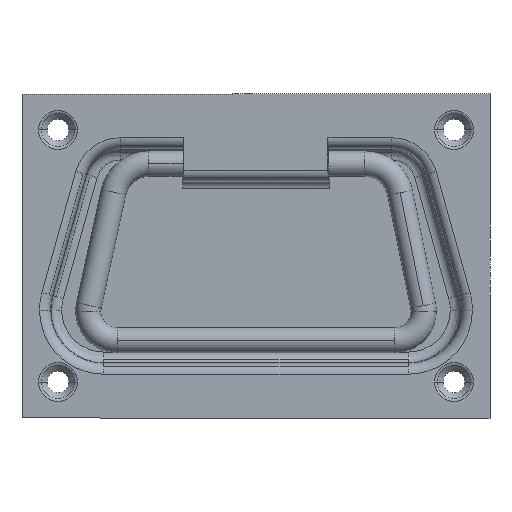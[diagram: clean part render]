
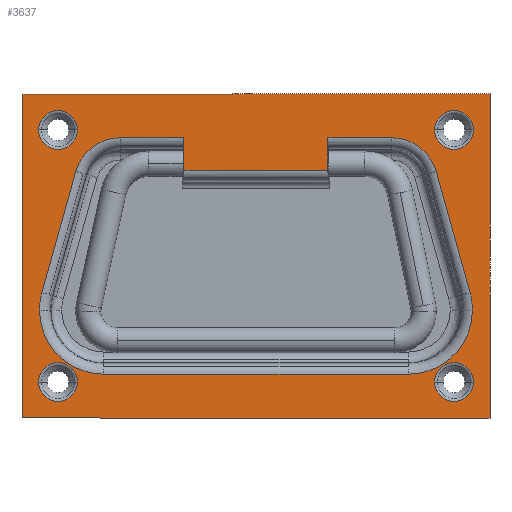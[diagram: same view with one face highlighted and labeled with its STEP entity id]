
A CAD part, front view. The second image highlights one B-rep face of the part: STEP entity #3637.
In plain terms, the highlighted planar face has unit normal (0, -1, 0) as drawn and (0, 0, 1) by its records, which use the part's own axes.
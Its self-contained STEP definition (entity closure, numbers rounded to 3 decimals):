
#431=CARTESIAN_POINT('',(-49.586,25.,5.5));
#432=VERTEX_POINT('',#431);
#440=CARTESIAN_POINT('',(-60.414,25.,5.5));
#441=VERTEX_POINT('',#440);
#442=CARTESIAN_POINT('',(-55.0,25.,5.5));
#443=DIRECTION('',(0.0,0.0,1.0));
#444=DIRECTION('',(-1.0,0.0,0.0));
#445=AXIS2_PLACEMENT_3D('',#442,#443,#444);
#446=CIRCLE('',#445,5.414);
#447=EDGE_CURVE('',#432,#441,#446,.T.);
#503=CARTESIAN_POINT('',(-49.586,-45.,5.5));
#504=VERTEX_POINT('',#503);
#512=CARTESIAN_POINT('',(-60.414,-45.,5.5));
#513=VERTEX_POINT('',#512);
#514=CARTESIAN_POINT('',(-55.0,-45.,5.5));
#515=DIRECTION('',(0.0,0.0,1.0));
#516=DIRECTION('',(-1.0,0.0,0.0));
#517=AXIS2_PLACEMENT_3D('',#514,#515,#516);
#518=CIRCLE('',#517,5.414);
#519=EDGE_CURVE('',#504,#513,#518,.T.);
#575=CARTESIAN_POINT('',(60.414,-45.,5.5));
#576=VERTEX_POINT('',#575);
#584=CARTESIAN_POINT('',(49.586,-45.,5.5));
#585=VERTEX_POINT('',#584);
#586=CARTESIAN_POINT('',(55.0,-45.,5.5));
#587=DIRECTION('',(0.0,0.0,1.0));
#588=DIRECTION('',(-1.0,0.0,0.0));
#589=AXIS2_PLACEMENT_3D('',#586,#587,#588);
#590=CIRCLE('',#589,5.414);
#591=EDGE_CURVE('',#576,#585,#590,.T.);
#647=CARTESIAN_POINT('',(60.414,25.,5.5));
#648=VERTEX_POINT('',#647);
#656=CARTESIAN_POINT('',(49.586,25.,5.5));
#657=VERTEX_POINT('',#656);
#658=CARTESIAN_POINT('',(55.0,25.,5.5));
#659=DIRECTION('',(0.0,0.0,1.0));
#660=DIRECTION('',(-1.0,0.0,0.0));
#661=AXIS2_PLACEMENT_3D('',#658,#659,#660);
#662=CIRCLE('',#661,5.414);
#663=EDGE_CURVE('',#648,#657,#662,.T.);
#1372=CARTESIAN_POINT('',(-60.116,5.002,5.5));
#1373=VERTEX_POINT('',#1372);
#1399=CARTESIAN_POINT('',(-42.269,22.849,5.5));
#1400=VERTEX_POINT('',#1399);
#1408=CARTESIAN_POINT('',(-42.269,5.002,5.5));
#1409=DIRECTION('',(0.0,0.0,1.));
#1410=DIRECTION('',(-0.797,0.604,0.0));
#1411=AXIS2_PLACEMENT_3D('',#1408,#1409,#1410);
#1412=CIRCLE('',#1411,17.847);
#1413=EDGE_CURVE('',#1400,#1373,#1412,.T.);
#1506=CARTESIAN_POINT('',(60.134,5.002,5.5));
#1507=VERTEX_POINT('',#1506);
#1515=CARTESIAN_POINT('',(42.287,22.849,5.5));
#1516=VERTEX_POINT('',#1515);
#1517=CARTESIAN_POINT('',(42.287,5.002,5.5));
#1518=DIRECTION('',(0.0,0.0,1.0));
#1519=DIRECTION('',(0.797,0.604,0.0));
#1520=AXIS2_PLACEMENT_3D('',#1517,#1518,#1519);
#1521=CIRCLE('',#1520,17.847);
#1522=EDGE_CURVE('',#1507,#1516,#1521,.T.);
#3296=CARTESIAN_POINT('',(50.061,-33.459,5.5));
#3297=VERTEX_POINT('',#3296);
#3305=CARTESIAN_POINT('',(59.474,0.195,5.5));
#3306=VERTEX_POINT('',#3305);
#3307=CARTESIAN_POINT('',(50.061,-33.459,5.5));
#3308=DIRECTION('',(0.269,0.963,0.0));
#3309=VECTOR('',#3308,34.946);
#3310=LINE('',#3307,#3309);
#3311=EDGE_CURVE('',#3297,#3306,#3310,.T.);
#3332=CARTESIAN_POINT('',(42.287,5.002,5.5));
#3333=DIRECTION('',(0.0,0.0,1.0));
#3334=DIRECTION('',(0.797,0.604,0.0));
#3335=AXIS2_PLACEMENT_3D('',#3332,#3333,#3334);
#3336=CIRCLE('',#3335,17.847);
#3337=EDGE_CURVE('',#3306,#1507,#3336,.T.);
#3348=CARTESIAN_POINT('',(37.689,-42.845,5.5));
#3349=VERTEX_POINT('',#3348);
#3357=CARTESIAN_POINT('',(37.689,-29.998,5.5));
#3358=DIRECTION('',(0.0,0.0,1.));
#3359=DIRECTION('',(0.604,-0.797,0.0));
#3360=AXIS2_PLACEMENT_3D('',#3357,#3358,#3359);
#3361=CIRCLE('',#3360,12.847);
#3362=EDGE_CURVE('',#3349,#3297,#3361,.T.);
#3377=CARTESIAN_POINT('',(42.287,22.849,5.5));
#3378=DIRECTION('',(-1.0,0.0,0.0));
#3379=VECTOR('',#3378,84.556);
#3380=LINE('',#3377,#3379);
#3381=EDGE_CURVE('',#1516,#1400,#3380,.T.);
#3393=CARTESIAN_POINT('',(20.006,-42.845,5.5));
#3394=VERTEX_POINT('',#3393);
#3402=CARTESIAN_POINT('',(20.006,-42.845,5.5));
#3403=DIRECTION('',(1.0,0.0,0.0));
#3404=VECTOR('',#3403,17.683);
#3405=LINE('',#3402,#3404);
#3406=EDGE_CURVE('',#3394,#3349,#3405,.T.);
#3418=CARTESIAN_POINT('',(-59.457,0.198,5.5));
#3419=VERTEX_POINT('',#3418);
#3420=CARTESIAN_POINT('',(-42.269,5.002,5.5));
#3421=DIRECTION('',(0.0,0.0,1.));
#3422=DIRECTION('',(-0.797,0.604,0.0));
#3423=AXIS2_PLACEMENT_3D('',#3420,#3421,#3422);
#3424=CIRCLE('',#3423,17.847);
#3425=EDGE_CURVE('',#1373,#3419,#3424,.T.);
#3446=CARTESIAN_POINT('',(-50.05,-33.457,5.5));
#3447=VERTEX_POINT('',#3446);
#3448=CARTESIAN_POINT('',(-59.457,0.198,5.5));
#3449=DIRECTION('',(0.269,-0.963,0.0));
#3450=VECTOR('',#3449,34.945);
#3451=LINE('',#3448,#3450);
#3452=EDGE_CURVE('',#3419,#3447,#3451,.T.);
#3469=CARTESIAN_POINT('',(-37.677,-42.845,5.5));
#3470=VERTEX_POINT('',#3469);
#3488=CARTESIAN_POINT('',(-37.677,-29.998,5.5));
#3489=DIRECTION('',(0.0,0.0,1.));
#3490=DIRECTION('',(-0.604,-0.797,0.0));
#3491=AXIS2_PLACEMENT_3D('',#3488,#3489,#3490);
#3492=CIRCLE('',#3491,12.847);
#3493=EDGE_CURVE('',#3447,#3470,#3492,.T.);
#3505=CARTESIAN_POINT('',(-19.994,-42.845,5.5));
#3506=VERTEX_POINT('',#3505);
#3507=CARTESIAN_POINT('',(-37.677,-42.845,5.5));
#3508=DIRECTION('',(1.0,0.0,0.0));
#3509=VECTOR('',#3508,17.683);
#3510=LINE('',#3507,#3509);
#3511=EDGE_CURVE('',#3470,#3506,#3510,.T.);
#3523=CARTESIAN_POINT('',(0.,0.,5.5));
#3524=DIRECTION('',(0.0,0.0,1.0));
#3525=DIRECTION('',(1.0,0.0,0.0));
#3526=AXIS2_PLACEMENT_3D('',#3523,#3524,#3525);
#3527=PLANE('',#3526);
#3528=CARTESIAN_POINT('',(65.0,35.,5.5));
#3529=VERTEX_POINT('',#3528);
#3530=CARTESIAN_POINT('',(65.0,-55.0,5.5));
#3531=VERTEX_POINT('',#3530);
#3532=CARTESIAN_POINT('',(65.0,35.,5.5));
#3533=DIRECTION('',(0.0,-1.0,0.0));
#3534=VECTOR('',#3533,90.);
#3535=LINE('',#3532,#3534);
#3536=EDGE_CURVE('',#3529,#3531,#3535,.T.);
#3537=ORIENTED_EDGE('',*,*,#3536,.F.);
#3538=CARTESIAN_POINT('',(-65.0,35.0,5.5));
#3539=VERTEX_POINT('',#3538);
#3540=CARTESIAN_POINT('',(-65.0,35.0,5.5));
#3541=DIRECTION('',(1.0,0.0,0.0));
#3542=VECTOR('',#3541,130.0);
#3543=LINE('',#3540,#3542);
#3544=EDGE_CURVE('',#3539,#3529,#3543,.T.);
#3545=ORIENTED_EDGE('',*,*,#3544,.F.);
#3546=CARTESIAN_POINT('',(-65.0,-55.,5.5));
#3547=VERTEX_POINT('',#3546);
#3548=CARTESIAN_POINT('',(-65.0,-55.,5.5));
#3549=DIRECTION('',(0.0,1.0,0.0));
#3550=VECTOR('',#3549,90.);
#3551=LINE('',#3548,#3550);
#3552=EDGE_CURVE('',#3547,#3539,#3551,.T.);
#3553=ORIENTED_EDGE('',*,*,#3552,.F.);
#3554=CARTESIAN_POINT('',(65.0,-55.0,5.5));
#3555=DIRECTION('',(-1.0,0.0,0.0));
#3556=VECTOR('',#3555,130.0);
#3557=LINE('',#3554,#3556);
#3558=EDGE_CURVE('',#3531,#3547,#3557,.T.);
#3559=ORIENTED_EDGE('',*,*,#3558,.F.);
#3560=EDGE_LOOP('',(#3537,#3545,#3553,#3559));
#3561=FACE_OUTER_BOUND('',#3560,.T.);
#3562=ORIENTED_EDGE('',*,*,#591,.F.);
#3563=CARTESIAN_POINT('',(55.0,-45.,5.5));
#3564=DIRECTION('',(0.0,0.0,1.0));
#3565=DIRECTION('',(-1.0,0.0,0.0));
#3566=AXIS2_PLACEMENT_3D('',#3563,#3564,#3565);
#3567=CIRCLE('',#3566,5.414);
#3568=EDGE_CURVE('',#585,#576,#3567,.T.);
#3569=ORIENTED_EDGE('',*,*,#3568,.F.);
#3570=EDGE_LOOP('',(#3562,#3569));
#3571=FACE_BOUND('',#3570,.T.);
#3572=ORIENTED_EDGE('',*,*,#447,.F.);
#3573=CARTESIAN_POINT('',(-55.0,25.,5.5));
#3574=DIRECTION('',(0.0,0.0,1.0));
#3575=DIRECTION('',(-1.0,0.0,0.0));
#3576=AXIS2_PLACEMENT_3D('',#3573,#3574,#3575);
#3577=CIRCLE('',#3576,5.414);
#3578=EDGE_CURVE('',#441,#432,#3577,.T.);
#3579=ORIENTED_EDGE('',*,*,#3578,.F.);
#3580=EDGE_LOOP('',(#3572,#3579));
#3581=FACE_BOUND('',#3580,.T.);
#3582=CARTESIAN_POINT('',(-19.994,-33.845,5.5));
#3583=VERTEX_POINT('',#3582);
#3584=CARTESIAN_POINT('',(-19.994,-33.845,5.5));
#3585=DIRECTION('',(0.0,-1.0,0.0));
#3586=VECTOR('',#3585,9.0);
#3587=LINE('',#3584,#3586);
#3588=EDGE_CURVE('',#3583,#3506,#3587,.T.);
#3589=ORIENTED_EDGE('',*,*,#3588,.T.);
#3590=ORIENTED_EDGE('',*,*,#3511,.F.);
#3591=ORIENTED_EDGE('',*,*,#3493,.F.);
#3592=ORIENTED_EDGE('',*,*,#3452,.F.);
#3593=ORIENTED_EDGE('',*,*,#3425,.F.);
#3594=ORIENTED_EDGE('',*,*,#1413,.F.);
#3595=ORIENTED_EDGE('',*,*,#3381,.F.);
#3596=ORIENTED_EDGE('',*,*,#1522,.F.);
#3597=ORIENTED_EDGE('',*,*,#3337,.F.);
#3598=ORIENTED_EDGE('',*,*,#3311,.F.);
#3599=ORIENTED_EDGE('',*,*,#3362,.F.);
#3600=ORIENTED_EDGE('',*,*,#3406,.F.);
#3601=CARTESIAN_POINT('',(20.006,-33.845,5.5));
#3602=VERTEX_POINT('',#3601);
#3603=CARTESIAN_POINT('',(20.006,-42.845,5.5));
#3604=DIRECTION('',(0.0,1.0,0.0));
#3605=VECTOR('',#3604,9.0);
#3606=LINE('',#3603,#3605);
#3607=EDGE_CURVE('',#3394,#3602,#3606,.T.);
#3608=ORIENTED_EDGE('',*,*,#3607,.T.);
#3609=CARTESIAN_POINT('',(-19.994,-33.845,5.5));
#3610=DIRECTION('',(1.0,0.0,0.0));
#3611=VECTOR('',#3610,40.0);
#3612=LINE('',#3609,#3611);
#3613=EDGE_CURVE('',#3583,#3602,#3612,.T.);
#3614=ORIENTED_EDGE('',*,*,#3613,.F.);
#3615=EDGE_LOOP('',(#3589,#3590,#3591,#3592,#3593,#3594,#3595,#3596,#3597,#3598,#3599,#3600,#3608,#3614));
#3616=FACE_BOUND('',#3615,.T.);
#3617=ORIENTED_EDGE('',*,*,#519,.F.);
#3618=CARTESIAN_POINT('',(-55.0,-45.,5.5));
#3619=DIRECTION('',(0.0,0.0,1.0));
#3620=DIRECTION('',(-1.0,0.0,0.0));
#3621=AXIS2_PLACEMENT_3D('',#3618,#3619,#3620);
#3622=CIRCLE('',#3621,5.414);
#3623=EDGE_CURVE('',#513,#504,#3622,.T.);
#3624=ORIENTED_EDGE('',*,*,#3623,.F.);
#3625=EDGE_LOOP('',(#3617,#3624));
#3626=FACE_BOUND('',#3625,.T.);
#3627=ORIENTED_EDGE('',*,*,#663,.F.);
#3628=CARTESIAN_POINT('',(55.0,25.,5.5));
#3629=DIRECTION('',(0.0,0.0,1.0));
#3630=DIRECTION('',(-1.0,0.0,0.0));
#3631=AXIS2_PLACEMENT_3D('',#3628,#3629,#3630);
#3632=CIRCLE('',#3631,5.414);
#3633=EDGE_CURVE('',#657,#648,#3632,.T.);
#3634=ORIENTED_EDGE('',*,*,#3633,.F.);
#3635=EDGE_LOOP('',(#3627,#3634));
#3636=FACE_BOUND('',#3635,.T.);
#3637=ADVANCED_FACE('',(#3561,#3571,#3581,#3616,#3626,#3636),#3527,.T.);
